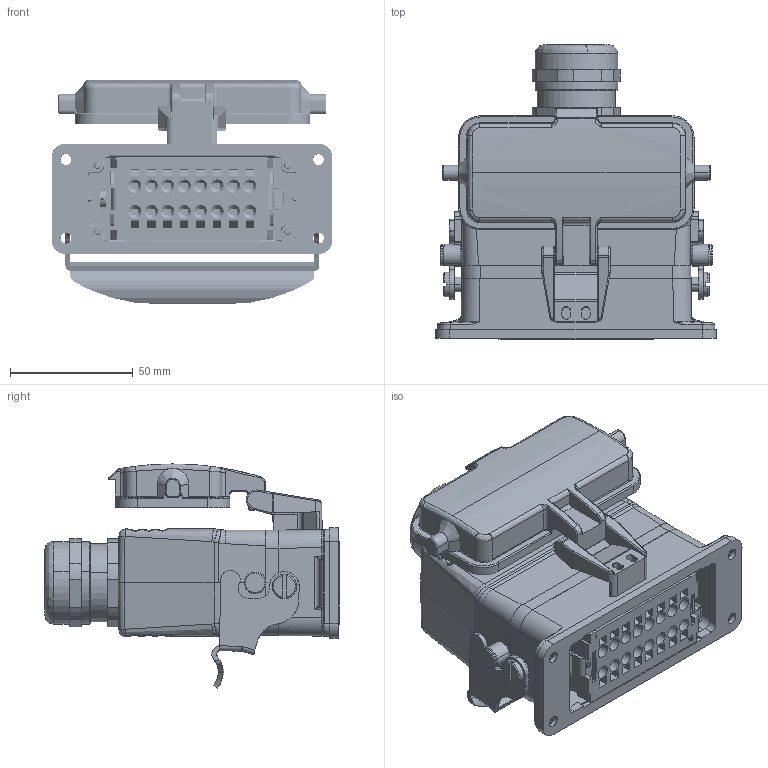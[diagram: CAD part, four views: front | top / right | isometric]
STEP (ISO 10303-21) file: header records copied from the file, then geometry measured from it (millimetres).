
FILE_DESCRIPTION (( 'STEP AP214' ), '1' );
FILE_NAME ('09116106125M HESH、16针、开孔带盖底座、顶出M25套件、配金属接头.STEP', '2024-04-28T05:03:59', ( 'L' ), ( '' ), 'SwSTEP 2.0', 'SolidWorks 2019', '' );
FILE_SCHEMA (( 'AUTOMOTIVE_DESIGN' ));
Length unit declared in the file: millimetre
Products named in the file (6): 09116106125M HESH、16针、开孔带盖底座、顶出M25套件、配金属接头; H16B-AD-LB.step; HESH-016-M.stp; HESH-016-F.stp; FAS-25-M.step; H16B-TG-RO-M25.step
Assembly tree (5 placements, depth 2):
  09116106125M HESH、16针、开孔带盖底座、顶出M25套件、配金属接头
    HESH-016-M.stp
    HESH-016-F.stp
    FAS-25-M.step
    H16B-AD-LB.step
    H16B-TG-RO-M25.step
Bounding box: 114.6 x 120.05 x 91.38 mm (x, y, z)
Volume: 262862.5 mm3; surface area: 148502.2 mm2
Topology: 5 solids, 10 shells, 4360 faces, 11361 edges, 7184 vertices
Faces by surface type: plane 2113, cylinder 1122, bspline 546, cone 471, torus 60, sphere 48
Entity records: 179030 total; most frequent: CARTESIAN_POINT 66039, ORIENTED_EDGE 22532, DIRECTION 18824, EDGE_CURVE 11266, VERTEX_POINT 7180, VECTOR 6492, LINE 6492, AXIS2_PLACEMENT_3D 6166
